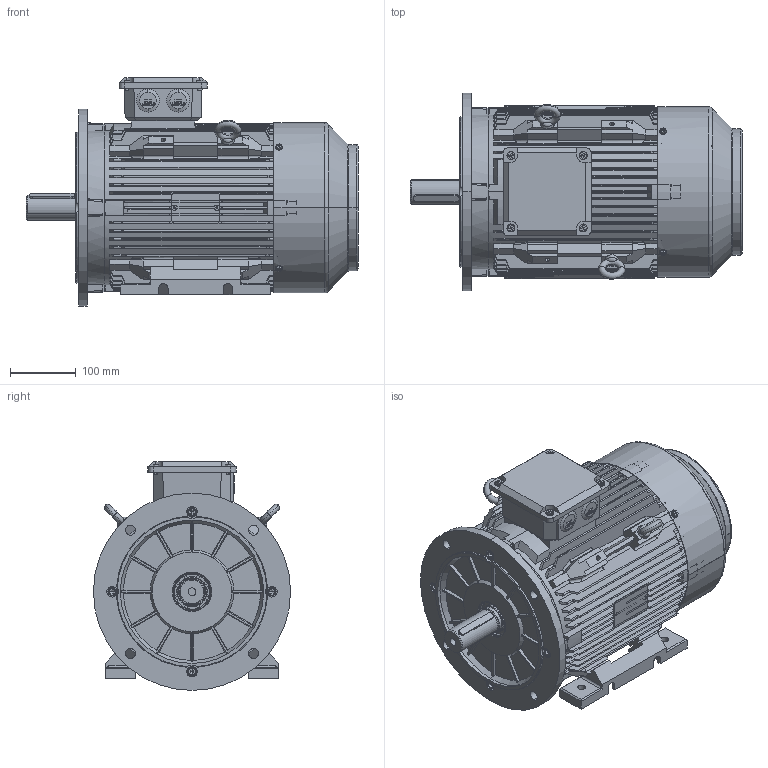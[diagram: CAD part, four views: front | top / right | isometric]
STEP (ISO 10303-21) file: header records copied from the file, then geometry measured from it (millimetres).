
FILE_DESCRIPTION (( 'STEP AP214' ), '1' );
FILE_NAME ('BCT3550.13F635.11.STEP', '2020-04-23T14:15:18', ( '' ), ( '' ), 'SwSTEP 2.0', 'SolidWorks 2019', '' );
FILE_SCHEMA (( 'AUTOMOTIVE_DESIGN' ));
Length unit declared in the file: millimetre
Products named in the file (1): BCT3550.13F635.11
Bounding box: 505 x 300 x 348 mm (x, y, z)
Volume: 5331134.5 mm3; surface area: 1843104.2 mm2
Topology: 35 solids, 35 shells, 4101 faces, 11324 edges, 7397 vertices
Faces by surface type: plane 2010, cylinder 1515, cone 336, bspline 122, torus 118
Entity records: 155224 total; most frequent: CARTESIAN_POINT 50664, ORIENTED_EDGE 22552, DIRECTION 20673, EDGE_CURVE 11276, VERTEX_POINT 7397, AXIS2_PLACEMENT_3D 7062, VECTOR 6549, LINE 6549
